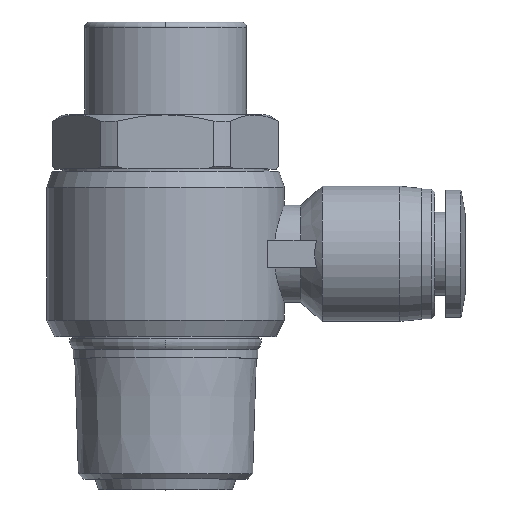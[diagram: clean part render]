
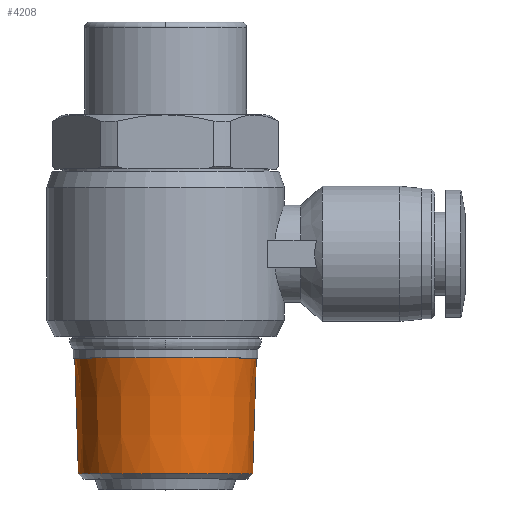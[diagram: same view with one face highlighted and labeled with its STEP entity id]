
A CAD part, top view. The second image highlights one B-rep face of the part: STEP entity #4208.
In plain terms, the highlighted conical face has half-angle 1.79 degrees and reference radius 8.233 mm.
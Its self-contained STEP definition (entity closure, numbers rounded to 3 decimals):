
#13 = DIRECTION ( 'NONE',  ( 0., 1., 0. ) ) ;
#208 = AXIS2_PLACEMENT_3D ( 'NONE', #582, #1569, #2903 ) ;
#225 = DIRECTION ( 'NONE',  ( -0.031, 1., 0. ) ) ;
#263 = VERTEX_POINT ( 'NONE', #1782 ) ;
#349 = AXIS2_PLACEMENT_3D ( 'NONE', #1339, #13, #2670 ) ;
#386 = DIRECTION ( 'NONE',  ( -1., 0., 0. ) ) ;
#582 = CARTESIAN_POINT ( 'NONE',  ( 0., 6.85, 0. ) ) ;
#590 = EDGE_LOOP ( 'NONE', ( #1918, #3172, #2734, #813 ) ) ;
#602 = CARTESIAN_POINT ( 'NONE',  ( -8.233, 6.85, 0. ) ) ;
#813 = ORIENTED_EDGE ( 'NONE', *, *, #4150, .F. ) ;
#824 = LINE ( 'NONE', #3513, #2116 ) ;
#842 = CIRCLE ( 'NONE', #349, 8.066 ) ;
#891 = FACE_OUTER_BOUND ( 'NONE', #590, .T. ) ;
#1339 = CARTESIAN_POINT ( 'NONE',  ( 0., 1.5, 0. ) ) ;
#1569 = DIRECTION ( 'NONE',  ( 0., 1., 0. ) ) ;
#1607 = VERTEX_POINT ( 'NONE', #3333 ) ;
#1782 = CARTESIAN_POINT ( 'NONE',  ( -8.4, 12.2, 0. ) ) ;
#1918 = ORIENTED_EDGE ( 'NONE', *, *, #2375, .T. ) ;
#2069 = VERTEX_POINT ( 'NONE', #2147 ) ;
#2096 = CARTESIAN_POINT ( 'NONE',  ( -8.066, 1.5, 0. ) ) ;
#2116 = VECTOR ( 'NONE', #3490, 1000. ) ;
#2147 = CARTESIAN_POINT ( 'NONE',  ( 8.4, 12.2, 0. ) ) ;
#2174 = CONICAL_SURFACE ( 'NONE', #208, 8.233, 0.031 ) ;
#2248 = LINE ( 'NONE', #602, #4260 ) ;
#2317 = CIRCLE ( 'NONE', #2872, 8.4 ) ;
#2375 = EDGE_CURVE ( 'NONE', #3504, #1607, #842, .T. ) ;
#2491 = DIRECTION ( 'NONE',  ( 0., 1., 0. ) ) ;
#2670 = DIRECTION ( 'NONE',  ( -1., 0., 0. ) ) ;
#2734 = ORIENTED_EDGE ( 'NONE', *, *, #4315, .F. ) ;
#2872 = AXIS2_PLACEMENT_3D ( 'NONE', #3055, #2491, #386 ) ;
#2903 = DIRECTION ( 'NONE',  ( -1., 0., 0. ) ) ;
#2978 = EDGE_CURVE ( 'NONE', #1607, #2069, #824, .T. ) ;
#3055 = CARTESIAN_POINT ( 'NONE',  ( 0., 12.2, 0. ) ) ;
#3172 = ORIENTED_EDGE ( 'NONE', *, *, #2978, .T. ) ;
#3333 = CARTESIAN_POINT ( 'NONE',  ( 8.066, 1.5, 0. ) ) ;
#3490 = DIRECTION ( 'NONE',  ( 0.031, 1., 0. ) ) ;
#3504 = VERTEX_POINT ( 'NONE', #2096 ) ;
#3513 = CARTESIAN_POINT ( 'NONE',  ( 8.233, 6.85, 0. ) ) ;
#4150 = EDGE_CURVE ( 'NONE', #3504, #263, #2248, .T. ) ;
#4208 = ADVANCED_FACE ( 'NONE', ( #891 ), #2174, .T. ) ;
#4260 = VECTOR ( 'NONE', #225, 1000. ) ;
#4315 = EDGE_CURVE ( 'NONE', #263, #2069, #2317, .T. ) ;
